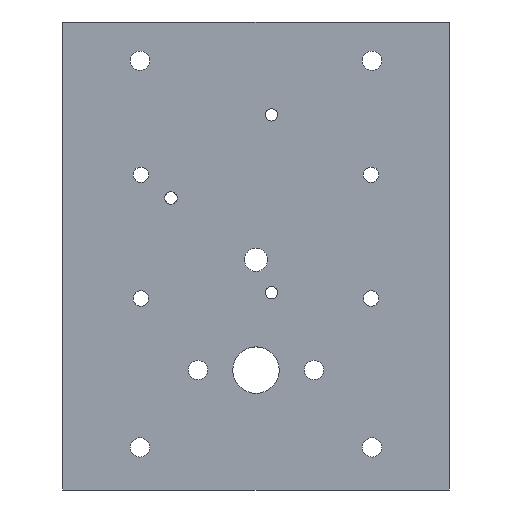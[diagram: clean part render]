
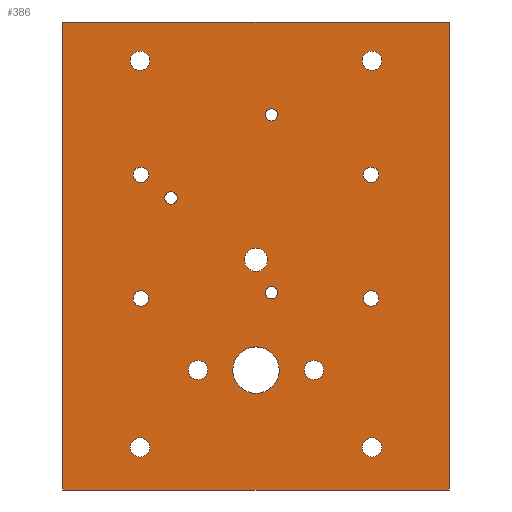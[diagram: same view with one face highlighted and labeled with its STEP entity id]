
A CAD part, top view. The second image highlights one B-rep face of the part: STEP entity #386.
In plain terms, the highlighted planar face has unit normal (0, 0, 1).
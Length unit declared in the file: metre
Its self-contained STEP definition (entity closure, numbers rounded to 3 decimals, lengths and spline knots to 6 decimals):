
#12=CIRCLE('',#419,0.006);
#14=CIRCLE('',#423,0.003);
#15=CIRCLE('',#424,0.002);
#16=CIRCLE('',#425,0.002);
#17=CIRCLE('',#426,0.002);
#18=CIRCLE('',#427,0.002);
#19=CIRCLE('',#428,0.0016);
#20=CIRCLE('',#429,0.0016);
#21=CIRCLE('',#430,0.0016);
#22=CIRCLE('',#431,0.0025);
#23=CIRCLE('',#432,0.0025);
#24=CIRCLE('',#433,0.0025);
#25=CIRCLE('',#434,0.0025);
#26=CIRCLE('',#435,0.0025);
#27=CIRCLE('',#436,0.0025);
#67=ORIENTED_EDGE('',*,*,#151,.F.);
#68=ORIENTED_EDGE('',*,*,#152,.F.);
#69=ORIENTED_EDGE('',*,*,#153,.F.);
#70=ORIENTED_EDGE('',*,*,#154,.F.);
#71=ORIENTED_EDGE('',*,*,#155,.F.);
#72=ORIENTED_EDGE('',*,*,#156,.F.);
#73=ORIENTED_EDGE('',*,*,#157,.F.);
#74=ORIENTED_EDGE('',*,*,#158,.F.);
#75=ORIENTED_EDGE('',*,*,#159,.F.);
#76=ORIENTED_EDGE('',*,*,#160,.F.);
#77=ORIENTED_EDGE('',*,*,#161,.F.);
#78=ORIENTED_EDGE('',*,*,#162,.F.);
#79=ORIENTED_EDGE('',*,*,#163,.F.);
#80=ORIENTED_EDGE('',*,*,#164,.F.);
#81=ORIENTED_EDGE('',*,*,#145,.F.);
#82=ORIENTED_EDGE('',*,*,#165,.F.);
#83=ORIENTED_EDGE('',*,*,#143,.T.);
#84=ORIENTED_EDGE('',*,*,#166,.T.);
#85=ORIENTED_EDGE('',*,*,#147,.F.);
#143=EDGE_CURVE('',#186,#185,#223,.T.);
#145=EDGE_CURVE('',#187,#187,#12,.T.);
#147=EDGE_CURVE('',#189,#190,#225,.T.);
#151=EDGE_CURVE('',#193,#193,#14,.T.);
#152=EDGE_CURVE('',#194,#194,#15,.T.);
#153=EDGE_CURVE('',#195,#195,#16,.T.);
#154=EDGE_CURVE('',#196,#196,#17,.T.);
#155=EDGE_CURVE('',#197,#197,#18,.T.);
#156=EDGE_CURVE('',#198,#198,#19,.T.);
#157=EDGE_CURVE('',#199,#199,#20,.T.);
#158=EDGE_CURVE('',#200,#200,#21,.T.);
#159=EDGE_CURVE('',#201,#201,#22,.T.);
#160=EDGE_CURVE('',#202,#202,#23,.T.);
#161=EDGE_CURVE('',#203,#203,#24,.T.);
#162=EDGE_CURVE('',#204,#204,#25,.T.);
#163=EDGE_CURVE('',#205,#205,#26,.T.);
#164=EDGE_CURVE('',#206,#206,#27,.T.);
#165=EDGE_CURVE('',#186,#189,#229,.T.);
#166=EDGE_CURVE('',#185,#190,#230,.T.);
#185=VERTEX_POINT('',#590);
#186=VERTEX_POINT('',#592);
#187=VERTEX_POINT('',#596);
#189=VERTEX_POINT('',#601);
#190=VERTEX_POINT('',#602);
#193=VERTEX_POINT('',#610);
#194=VERTEX_POINT('',#612);
#195=VERTEX_POINT('',#614);
#196=VERTEX_POINT('',#616);
#197=VERTEX_POINT('',#618);
#198=VERTEX_POINT('',#620);
#199=VERTEX_POINT('',#622);
#200=VERTEX_POINT('',#624);
#201=VERTEX_POINT('',#626);
#202=VERTEX_POINT('',#628);
#203=VERTEX_POINT('',#630);
#204=VERTEX_POINT('',#632);
#205=VERTEX_POINT('',#634);
#206=VERTEX_POINT('',#636);
#223=LINE('',#591,#235);
#225=LINE('',#600,#237);
#229=LINE('',#637,#241);
#230=LINE('',#638,#242);
#235=VECTOR('',#474,1.);
#237=VECTOR('',#484,1.);
#241=VECTOR('',#518,1.);
#242=VECTOR('',#519,1.);
#249=EDGE_LOOP('',(#67));
#250=EDGE_LOOP('',(#68));
#251=EDGE_LOOP('',(#69));
#252=EDGE_LOOP('',(#70));
#253=EDGE_LOOP('',(#71));
#254=EDGE_LOOP('',(#72));
#255=EDGE_LOOP('',(#73));
#256=EDGE_LOOP('',(#74));
#257=EDGE_LOOP('',(#75));
#258=EDGE_LOOP('',(#76));
#259=EDGE_LOOP('',(#77));
#260=EDGE_LOOP('',(#78));
#261=EDGE_LOOP('',(#79));
#262=EDGE_LOOP('',(#80));
#263=EDGE_LOOP('',(#81));
#264=EDGE_LOOP('',(#82,#83,#84,#85));
#315=FACE_BOUND('',#249,.T.);
#316=FACE_BOUND('',#250,.T.);
#317=FACE_BOUND('',#251,.T.);
#318=FACE_BOUND('',#252,.T.);
#319=FACE_BOUND('',#253,.T.);
#320=FACE_BOUND('',#254,.T.);
#321=FACE_BOUND('',#255,.T.);
#322=FACE_BOUND('',#256,.T.);
#323=FACE_BOUND('',#257,.T.);
#324=FACE_BOUND('',#258,.T.);
#325=FACE_BOUND('',#259,.T.);
#326=FACE_BOUND('',#260,.T.);
#327=FACE_BOUND('',#261,.T.);
#328=FACE_BOUND('',#262,.T.);
#329=FACE_BOUND('',#263,.T.);
#330=FACE_BOUND('',#264,.T.);
#379=PLANE('',#422);
#386=ADVANCED_FACE('',(#315,#316,#317,#318,#319,#320,#321,#322,#323,#324,
#325,#326,#327,#328,#329,#330),#379,.T.);
#419=AXIS2_PLACEMENT_3D('',#595,#478,#479);
#422=AXIS2_PLACEMENT_3D('',#608,#488,#489);
#423=AXIS2_PLACEMENT_3D('',#609,#490,#491);
#424=AXIS2_PLACEMENT_3D('',#611,#492,#493);
#425=AXIS2_PLACEMENT_3D('',#613,#494,#495);
#426=AXIS2_PLACEMENT_3D('',#615,#496,#497);
#427=AXIS2_PLACEMENT_3D('',#617,#498,#499);
#428=AXIS2_PLACEMENT_3D('',#619,#500,#501);
#429=AXIS2_PLACEMENT_3D('',#621,#502,#503);
#430=AXIS2_PLACEMENT_3D('',#623,#504,#505);
#431=AXIS2_PLACEMENT_3D('',#625,#506,#507);
#432=AXIS2_PLACEMENT_3D('',#627,#508,#509);
#433=AXIS2_PLACEMENT_3D('',#629,#510,#511);
#434=AXIS2_PLACEMENT_3D('',#631,#512,#513);
#435=AXIS2_PLACEMENT_3D('',#633,#514,#515);
#436=AXIS2_PLACEMENT_3D('',#635,#516,#517);
#474=DIRECTION('',(0.,1.,0.));
#478=DIRECTION('',(0.,0.,1.));
#479=DIRECTION('',(1.,0.,0.));
#484=DIRECTION('',(0.,1.,0.));
#488=DIRECTION('',(0.,0.,1.));
#489=DIRECTION('',(1.,0.,0.));
#490=DIRECTION('',(0.,0.,1.));
#491=DIRECTION('',(1.,0.,0.));
#492=DIRECTION('',(0.,0.,1.));
#493=DIRECTION('',(1.,0.,0.));
#494=DIRECTION('',(0.,0.,1.));
#495=DIRECTION('',(1.,0.,0.));
#496=DIRECTION('',(0.,0.,1.));
#497=DIRECTION('',(1.,0.,0.));
#498=DIRECTION('',(0.,0.,1.));
#499=DIRECTION('',(1.,0.,0.));
#500=DIRECTION('',(0.,0.,1.));
#501=DIRECTION('',(1.,0.,0.));
#502=DIRECTION('',(0.,0.,1.));
#503=DIRECTION('',(1.,0.,0.));
#504=DIRECTION('',(0.,0.,1.));
#505=DIRECTION('',(1.,0.,0.));
#506=DIRECTION('',(0.,0.,1.));
#507=DIRECTION('',(1.,0.,0.));
#508=DIRECTION('',(0.,0.,1.));
#509=DIRECTION('',(1.,0.,0.));
#510=DIRECTION('',(0.,0.,1.));
#511=DIRECTION('',(1.,0.,0.));
#512=DIRECTION('',(0.,0.,1.));
#513=DIRECTION('',(1.,0.,0.));
#514=DIRECTION('',(0.,0.,1.));
#515=DIRECTION('',(1.,0.,0.));
#516=DIRECTION('',(0.,0.,1.));
#517=DIRECTION('',(1.,0.,0.));
#518=DIRECTION('',(-1.,0.,0.));
#519=DIRECTION('',(-1.,0.,0.));
#590=CARTESIAN_POINT('',(0.05,0.0605,0.003));
#591=CARTESIAN_POINT('',(0.05,0.,0.003));
#592=CARTESIAN_POINT('',(0.05,-0.0605,0.003));
#595=CARTESIAN_POINT('',(0.,-0.0295,0.003));
#596=CARTESIAN_POINT('',(0.006,-0.0295,0.003));
#600=CARTESIAN_POINT('',(-0.05,0.,0.003));
#601=CARTESIAN_POINT('',(-0.05,-0.0605,0.003));
#602=CARTESIAN_POINT('',(-0.05,0.0605,0.003));
#608=CARTESIAN_POINT('',(0.,0.,0.003));
#609=CARTESIAN_POINT('',(0.,-0.001,0.003));
#610=CARTESIAN_POINT('',(0.003,-0.001,0.003));
#611=CARTESIAN_POINT('',(0.02975,-0.011,0.003));
#612=CARTESIAN_POINT('',(0.03175,-0.011,0.003));
#613=CARTESIAN_POINT('',(-0.02975,-0.011,0.003));
#614=CARTESIAN_POINT('',(-0.02775,-0.011,0.003));
#615=CARTESIAN_POINT('',(-0.02975,0.021,0.003));
#616=CARTESIAN_POINT('',(-0.02775,0.021,0.003));
#617=CARTESIAN_POINT('',(0.02975,0.021,0.003));
#618=CARTESIAN_POINT('',(0.03175,0.021,0.003));
#619=CARTESIAN_POINT('',(0.004,0.0365,0.003));
#620=CARTESIAN_POINT('',(0.0056,0.0365,0.003));
#621=CARTESIAN_POINT('',(0.004,-0.0095,0.003));
#622=CARTESIAN_POINT('',(0.0056,-0.0095,0.003));
#623=CARTESIAN_POINT('',(-0.022,0.015,0.003));
#624=CARTESIAN_POINT('',(-0.0204,0.015,0.003));
#625=CARTESIAN_POINT('',(-0.03,-0.0495,0.003));
#626=CARTESIAN_POINT('',(-0.0275,-0.0495,0.003));
#627=CARTESIAN_POINT('',(-0.03,0.0505,0.003));
#628=CARTESIAN_POINT('',(-0.0275,0.0505,0.003));
#629=CARTESIAN_POINT('',(0.03,0.0505,0.003));
#630=CARTESIAN_POINT('',(0.0325,0.0505,0.003));
#631=CARTESIAN_POINT('',(-0.015,-0.0295,0.003));
#632=CARTESIAN_POINT('',(-0.0125,-0.0295,0.003));
#633=CARTESIAN_POINT('',(0.015,-0.0295,0.003));
#634=CARTESIAN_POINT('',(0.0175,-0.0295,0.003));
#635=CARTESIAN_POINT('',(0.03,-0.0495,0.003));
#636=CARTESIAN_POINT('',(0.0325,-0.0495,0.003));
#637=CARTESIAN_POINT('',(0.,-0.0605,0.003));
#638=CARTESIAN_POINT('',(0.,0.0605,0.003));
